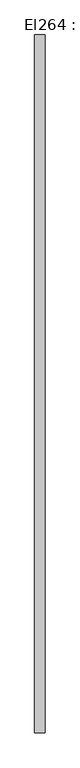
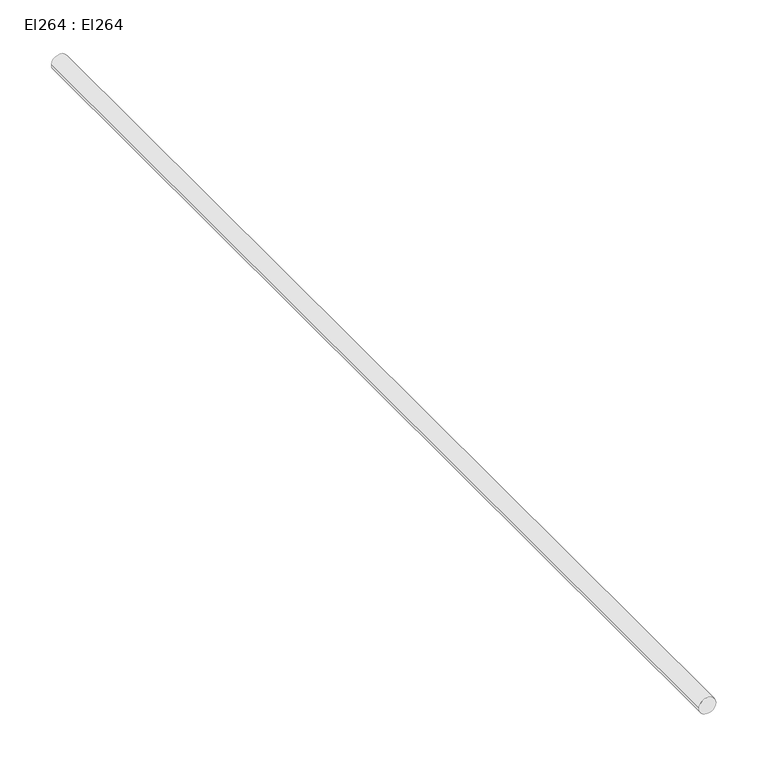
"""IFC4 building model written with IfcOpenShell, lengths in millimetres: cable carrier segment geometry, El264 : El264."""

from ifc_helpers import new_model, si_unit, point, frame, frame_2d, origin, place, context, project, spatial, circle_curve, trimmed, segment, composite_curve, outline, extrude, source, transform, mapped, element, save


def el264_el264_45aff865(model_context):
    return source(origin(), model_context, "Body", "SweptSolid", [
        extrude(outline(composite_curve([segment(trimmed(circle_curve(frame_2d((2950.0, 7650.0)), 9.5), [point((2950.0, 7640.5))], [point((2950.0, 7659.5))], False, "CARTESIAN"), True, "CONTINUOUS"), segment(trimmed(circle_curve(frame_2d((2950.0, 7650.0)), 9.5), [point((2950.0, 7659.5))], [point((2950.0, 7640.5))], False, "CARTESIAN"), True, "CONTINUOUS")], self_intersect=False)), frame((0.0, 23848.18, 0.0), z_axis=(0.0, 1.0, 0.0), x_axis=(0.0, 0.0, 1.0)), (0.0, 0.0, 1.0), 1257.24),
    ])


if __name__ == "__main__":
    model = new_model("IFC4")
    model_context = context("Model", 3, world=origin())
    ifc_project = project(units=[si_unit("LENGTHUNIT", "METRE", prefix="MILLI")], contexts=[model_context])
    site = spatial("IfcSite", under=ifc_project)
    building = spatial("IfcBuilding", under=site)
    placement = place(None, origin())
    el264_el264_shape = el264_el264_45aff865(model_context)
    element("IfcCableCarrierSegment", 1, ObjectType="El264 : El264", at=placement, inside=building, context=model_context, shape_type="MappedRepresentation", body=[
        mapped(el264_el264_shape, transform((0.0, 0.0, 0.0), x_axis=(1.0, 0.0, 0.0), y_axis=(0.0, 1.0, 0.0), z_axis=(0.0, 0.0, 1.0))),
    ])
    save(model, "model.ifc")
